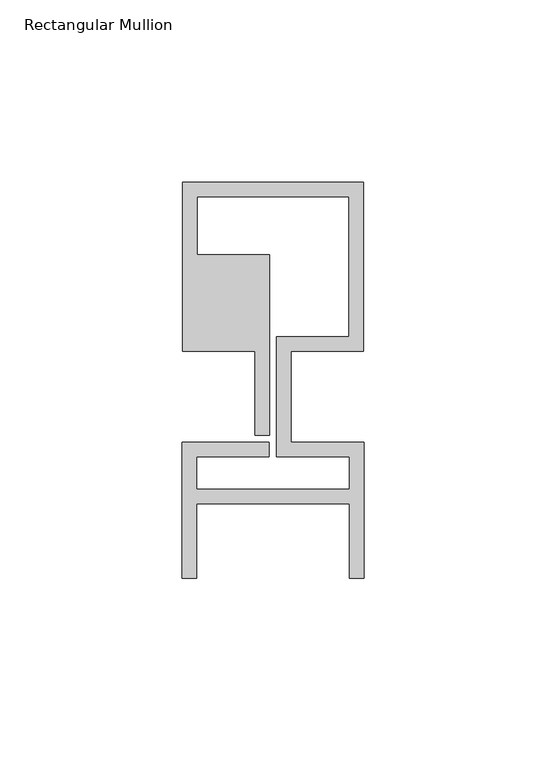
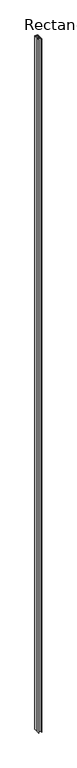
"""IFC4 building model written with IfcOpenShell, lengths in millimetres: member geometry, Rectangular Mullion : Reynaers_CW-50_Mullion-Transom_Horizontal_46.4mm_Facecap-03."""

from ifc_helpers import new_model, si_unit, frame, origin, place, context, project, spatial, polyline, outline, extrude, source, transform, mapped, element, save


def rectangular_mullion_92fd8a44(model_context):
    return source(origin(), model_context, "Body", "SweptSolid", [
        extrude(outline(polyline([(-24.8004059, 58.9), (24.8004059, 58.9), (24.8004059, 12.5), (4.9004059, 12.5), (4.9004059, -12.5), (24.994845, -12.5), (24.994845, -49.8), (20.994845, -49.8), (20.994845, -29.3268728), (-20.994845, -29.3268728), (-20.994845, -49.8), (-24.994845, -49.8), (-24.994845, -12.5), (-1.0995941, -12.5), (-1.0995941, -16.5), (-20.994845, -16.5), (-20.994845, -25.3268728), (20.994845, -25.3268728), (20.994845, -16.5), (0.9004059, -16.5), (0.9004059, 16.5), (20.8004059, 16.5), (20.8004059, 54.9), (-20.8004059, 54.9), (-20.8004059, 39.0), (-0.9004059, 39.0), (-0.9004059, -10.5), (-4.9004059, -10.5), (-4.9004059, 12.5), (-24.8004059, 12.5), (-24.8004059, 58.9)])), frame((0.0, 0.0, -12000.0), z_axis=(0.0, 0.0, 1.0), x_axis=(1.0, 0.0, 0.0)), (0.0, 0.0, 1.0), 12000.0),
    ])


if __name__ == "__main__":
    model = new_model("IFC4")
    model_context = context("Model", 3, world=origin())
    ifc_project = project(units=[si_unit("LENGTHUNIT", "METRE", prefix="MILLI")], contexts=[model_context])
    site = spatial("IfcSite", under=ifc_project)
    building = spatial("IfcBuilding", under=site)
    placement = place(None, origin())
    rectangular_mullion_shape = rectangular_mullion_92fd8a44(model_context)
    element("IfcMember", 1, ObjectType="Rectangular Mullion : Reynaers_CW-50_Mullion-Transom_Horizontal_46.4mm_Facecap-03", at=placement, inside=building, context=model_context, shape_type="MappedRepresentation", body=[
        mapped(rectangular_mullion_shape, transform((0.0, 0.0, 0.0), x_axis=(1.0, 0.0, 0.0), y_axis=(0.0, 1.0, 0.0), z_axis=(0.0, 0.0, 1.0))),
    ])
    save(model, "model.ifc")
